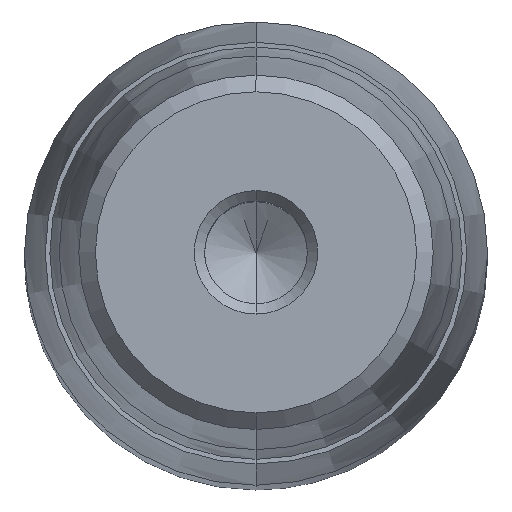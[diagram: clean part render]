
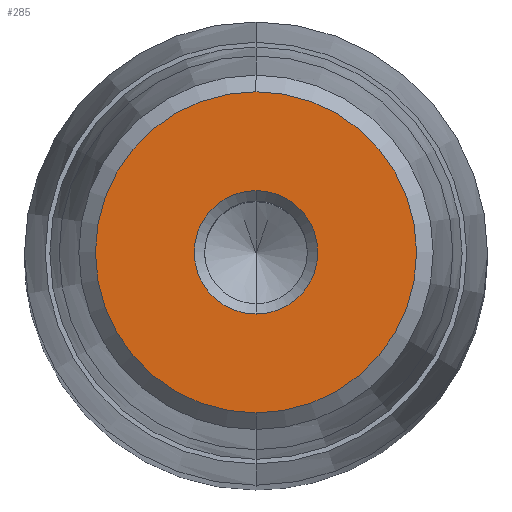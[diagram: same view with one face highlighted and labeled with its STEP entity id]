
A CAD part, top view. The second image highlights one B-rep face of the part: STEP entity #285.
In plain terms, the highlighted planar face has unit normal (0, 0, 1).
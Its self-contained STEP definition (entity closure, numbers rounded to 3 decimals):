
#164=CARTESIAN_POINT('Axis2P3D Location',(0.,0.,48.)) ;
#168=CARTESIAN_POINT('Vertex',(4.,0.,48.)) ;
#170=CARTESIAN_POINT('Vertex',(0.,-4.,48.)) ;
#173=CARTESIAN_POINT('Axis2P3D Location',(0.,0.,48.)) ;
#177=CARTESIAN_POINT('Vertex',(0.,4.,48.)) ;
#228=CARTESIAN_POINT('Axis2P3D Location',(0.,4.,48.)) ;
#233=CARTESIAN_POINT('Axis2P3D Location',(0.,0.,48.)) ;
#237=CARTESIAN_POINT('Vertex',(0.,10.4,48.)) ;
#239=CARTESIAN_POINT('Vertex',(10.4,0.,48.)) ;
#242=CARTESIAN_POINT('Axis2P3D Location',(0.,0.,48.)) ;
#246=CARTESIAN_POINT('Vertex',(-10.4,0.,48.)) ;
#249=CARTESIAN_POINT('Axis2P3D Location',(0.,0.,48.)) ;
#253=CARTESIAN_POINT('Vertex',(0.,-10.4,48.)) ;
#256=CARTESIAN_POINT('Axis2P3D Location',(0.,0.,48.)) ;
#267=CARTESIAN_POINT('Axis2P3D Location',(0.,0.,48.)) ;
#271=CARTESIAN_POINT('Vertex',(-4.,0.,48.)) ;
#274=CARTESIAN_POINT('Axis2P3D Location',(0.,0.,48.)) ;
#165=DIRECTION('Axis2P3D Direction',(-0.,0.,1.)) ;
#174=DIRECTION('Axis2P3D Direction',(-0.,0.,1.)) ;
#229=DIRECTION('Axis2P3D Direction',(0.,0.,-1.)) ;
#230=DIRECTION('Axis2P3D XDirection',(0.,1.,0.)) ;
#234=DIRECTION('Axis2P3D Direction',(0.,0.,-1.)) ;
#243=DIRECTION('Axis2P3D Direction',(0.,0.,-1.)) ;
#250=DIRECTION('Axis2P3D Direction',(0.,0.,-1.)) ;
#257=DIRECTION('Axis2P3D Direction',(0.,0.,-1.)) ;
#268=DIRECTION('Axis2P3D Direction',(0.,0.,-1.)) ;
#275=DIRECTION('Axis2P3D Direction',(0.,0.,-1.)) ;
#166=AXIS2_PLACEMENT_3D('Circle Axis2P3D',#164,#165,$) ;
#175=AXIS2_PLACEMENT_3D('Circle Axis2P3D',#173,#174,$) ;
#231=AXIS2_PLACEMENT_3D('Plane Axis2P3D',#228,#229,#230) ;
#235=AXIS2_PLACEMENT_3D('Circle Axis2P3D',#233,#234,$) ;
#244=AXIS2_PLACEMENT_3D('Circle Axis2P3D',#242,#243,$) ;
#251=AXIS2_PLACEMENT_3D('Circle Axis2P3D',#249,#250,$) ;
#258=AXIS2_PLACEMENT_3D('Circle Axis2P3D',#256,#257,$) ;
#269=AXIS2_PLACEMENT_3D('Circle Axis2P3D',#267,#268,$) ;
#276=AXIS2_PLACEMENT_3D('Circle Axis2P3D',#274,#275,$) ;
#262=ORIENTED_EDGE('',*,*,#241,.F.) ;
#263=ORIENTED_EDGE('',*,*,#248,.F.) ;
#264=ORIENTED_EDGE('',*,*,#255,.F.) ;
#265=ORIENTED_EDGE('',*,*,#260,.F.) ;
#280=ORIENTED_EDGE('',*,*,#172,.T.) ;
#281=ORIENTED_EDGE('',*,*,#273,.T.) ;
#282=ORIENTED_EDGE('',*,*,#278,.T.) ;
#283=ORIENTED_EDGE('',*,*,#179,.T.) ;
#284=FACE_BOUND('',#279,.T.) ;
#285=ADVANCED_FACE('722-30x200x233',(#266,#284),#232,.F.) ;
#167=CIRCLE('generated circle',#166,4.) ;
#176=CIRCLE('generated circle',#175,4.) ;
#236=CIRCLE('generated circle',#235,10.4) ;
#245=CIRCLE('generated circle',#244,10.4) ;
#252=CIRCLE('generated circle',#251,10.4) ;
#259=CIRCLE('generated circle',#258,10.4) ;
#270=CIRCLE('generated circle',#269,4.) ;
#277=CIRCLE('generated circle',#276,4.) ;
#172=EDGE_CURVE('',#169,#171,#167,.F.) ;
#179=EDGE_CURVE('',#178,#169,#176,.F.) ;
#241=EDGE_CURVE('',#238,#240,#236,.T.) ;
#248=EDGE_CURVE('',#247,#238,#245,.T.) ;
#255=EDGE_CURVE('',#254,#247,#252,.T.) ;
#260=EDGE_CURVE('',#240,#254,#259,.T.) ;
#273=EDGE_CURVE('',#171,#272,#270,.T.) ;
#278=EDGE_CURVE('',#272,#178,#277,.T.) ;
#261=EDGE_LOOP('',(#262,#263,#264,#265)) ;
#279=EDGE_LOOP('',(#280,#281,#282,#283)) ;
#266=FACE_OUTER_BOUND('',#261,.T.) ;
#232=PLANE('Plane',#231) ;
#169=VERTEX_POINT('',#168) ;
#171=VERTEX_POINT('',#170) ;
#178=VERTEX_POINT('',#177) ;
#238=VERTEX_POINT('',#237) ;
#240=VERTEX_POINT('',#239) ;
#247=VERTEX_POINT('',#246) ;
#254=VERTEX_POINT('',#253) ;
#272=VERTEX_POINT('',#271) ;
